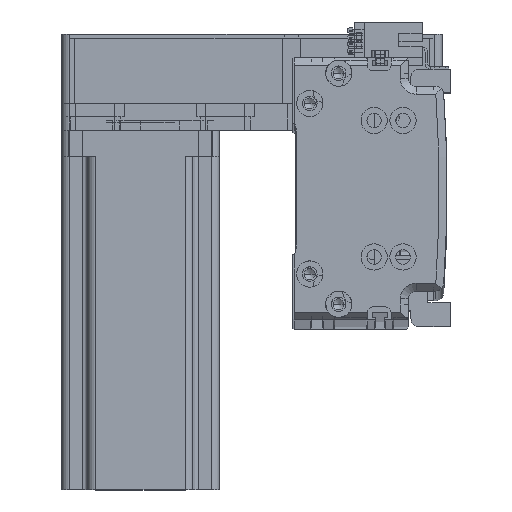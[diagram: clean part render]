
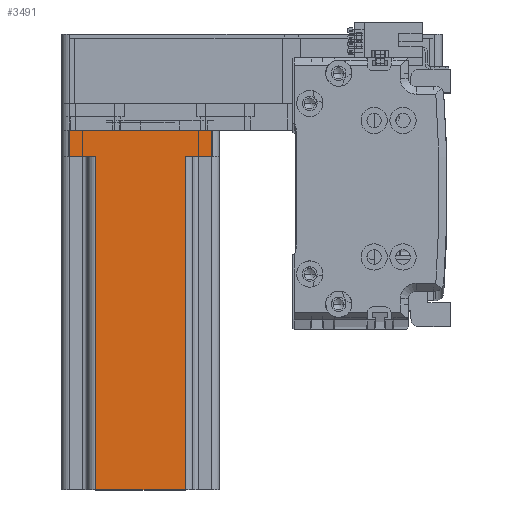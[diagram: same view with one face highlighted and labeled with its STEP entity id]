
A CAD part, top view. The second image highlights one B-rep face of the part: STEP entity #3491.
In plain terms, the highlighted planar face has unit normal (0, 0, 1) as drawn and (0, -1, 0) by its records, which use the part's own axes.
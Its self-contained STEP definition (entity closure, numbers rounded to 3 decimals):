
#617 = CARTESIAN_POINT ( 'NONE',  ( 30., -30., 0. ) ) ;
#635 = ORIENTED_EDGE ( 'NONE', *, *, #65458, .F. ) ;
#690 = CARTESIAN_POINT ( 'NONE',  ( 17., -30., 10. ) ) ;
#1277 = VERTEX_POINT ( 'NONE', #61323 ) ;
#1317 = VERTEX_POINT ( 'NONE', #14780 ) ;
#1406 = EDGE_CURVE ( 'NONE', #10489, #40994, #45554, .T. ) ;
#2375 = CARTESIAN_POINT ( 'NONE',  ( -27., -30., 0. ) ) ;
#2650 = DIRECTION ( 'NONE',  ( 0., 0., 1. ) ) ;
#3484 = VERTEX_POINT ( 'NONE', #3823 ) ;
#3491 = ADVANCED_FACE ( 'NONE', ( #10853 ), #24780, .F. ) ;
#3656 = VECTOR ( 'NONE', #9296, 1000. ) ;
#3691 = LINE ( 'NONE', #60807, #43668 ) ;
#3823 = CARTESIAN_POINT ( 'NONE',  ( -17., -30., 137. ) ) ;
#6710 = CARTESIAN_POINT ( 'NONE',  ( -27., -30., 137. ) ) ;
#7918 = EDGE_CURVE ( 'NONE', #51882, #10489, #36630, .T. ) ;
#9296 = DIRECTION ( 'NONE',  ( 1., 0., 0. ) ) ;
#10489 = VERTEX_POINT ( 'NONE', #2375 ) ;
#10853 = FACE_OUTER_BOUND ( 'NONE', #46519, .T. ) ;
#12124 = VERTEX_POINT ( 'NONE', #20728 ) ;
#12247 = CARTESIAN_POINT ( 'NONE',  ( 27., -30., 0. ) ) ;
#13588 = ORIENTED_EDGE ( 'NONE', *, *, #38333, .T. ) ;
#14311 = VECTOR ( 'NONE', #21589, 1000. ) ;
#14523 = CARTESIAN_POINT ( 'NONE',  ( 30., -30., 137. ) ) ;
#14780 = CARTESIAN_POINT ( 'NONE',  ( 27., -30., 10. ) ) ;
#15729 = CARTESIAN_POINT ( 'NONE',  ( -17., -30., 137. ) ) ;
#15754 = ORIENTED_EDGE ( 'NONE', *, *, #23719, .T. ) ;
#16354 = ORIENTED_EDGE ( 'NONE', *, *, #48516, .T. ) ;
#17525 = LINE ( 'NONE', #24777, #3656 ) ;
#17617 = EDGE_CURVE ( 'NONE', #3484, #12124, #3691, .T. ) ;
#18454 = VERTEX_POINT ( 'NONE', #690 ) ;
#19729 = DIRECTION ( 'NONE',  ( -1., 0., 0. ) ) ;
#20728 = CARTESIAN_POINT ( 'NONE',  ( 17., -30., 137. ) ) ;
#21589 = DIRECTION ( 'NONE',  ( -1., 0., 0. ) ) ;
#22413 = DIRECTION ( 'NONE',  ( 0., 0., -1. ) ) ;
#22765 = VECTOR ( 'NONE', #22413, 1000. ) ;
#23692 = LINE ( 'NONE', #15729, #35903 ) ;
#23719 = EDGE_CURVE ( 'NONE', #40994, #1317, #58455, .T. ) ;
#23842 = ORIENTED_EDGE ( 'NONE', *, *, #58799, .T. ) ;
#24777 = CARTESIAN_POINT ( 'NONE',  ( -20., -30., 10. ) ) ;
#24780 = PLANE ( 'NONE',  #64255 ) ;
#26507 = LINE ( 'NONE', #58124, #14311 ) ;
#27135 = VECTOR ( 'NONE', #56960, 1000. ) ;
#28795 = LINE ( 'NONE', #62196, #27135 ) ;
#29530 = DIRECTION ( 'NONE',  ( 1., 0., 0. ) ) ;
#31091 = ORIENTED_EDGE ( 'NONE', *, *, #7918, .T. ) ;
#31674 = VECTOR ( 'NONE', #37085, 1000. ) ;
#35903 = VECTOR ( 'NONE', #57474, 1000. ) ;
#36318 = ORIENTED_EDGE ( 'NONE', *, *, #17617, .F. ) ;
#36630 = LINE ( 'NONE', #6710, #22765 ) ;
#37085 = DIRECTION ( 'NONE',  ( 1., 0., 0. ) ) ;
#38333 = EDGE_CURVE ( 'NONE', #1317, #18454, #26507, .T. ) ;
#40994 = VERTEX_POINT ( 'NONE', #12247 ) ;
#42933 = VECTOR ( 'NONE', #2650, 1000. ) ;
#43668 = VECTOR ( 'NONE', #29530, 1000. ) ;
#45554 = LINE ( 'NONE', #617, #31674 ) ;
#46519 = EDGE_LOOP ( 'NONE', ( #36318, #23842, #635, #31091, #50112, #15754, #13588, #16354 ) ) ;
#48516 = EDGE_CURVE ( 'NONE', #18454, #12124, #28795, .T. ) ;
#50112 = ORIENTED_EDGE ( 'NONE', *, *, #1406, .T. ) ;
#51016 = DIRECTION ( 'NONE',  ( 0., 1., 0. ) ) ;
#51882 = VERTEX_POINT ( 'NONE', #67247 ) ;
#56960 = DIRECTION ( 'NONE',  ( 0., 0., 1. ) ) ;
#57474 = DIRECTION ( 'NONE',  ( 0., 0., -1. ) ) ;
#58124 = CARTESIAN_POINT ( 'NONE',  ( 20., -30., 10. ) ) ;
#58455 = LINE ( 'NONE', #59877, #42933 ) ;
#58799 = EDGE_CURVE ( 'NONE', #3484, #1277, #23692, .T. ) ;
#59877 = CARTESIAN_POINT ( 'NONE',  ( 27., -30., 137. ) ) ;
#60807 = CARTESIAN_POINT ( 'NONE',  ( 30., -30., 137. ) ) ;
#61323 = CARTESIAN_POINT ( 'NONE',  ( -17., -30., 10. ) ) ;
#62196 = CARTESIAN_POINT ( 'NONE',  ( 17., -30., 137. ) ) ;
#64255 = AXIS2_PLACEMENT_3D ( 'NONE', #14523, #51016, #19729 ) ;
#65458 = EDGE_CURVE ( 'NONE', #51882, #1277, #17525, .T. ) ;
#67247 = CARTESIAN_POINT ( 'NONE',  ( -27., -30., 10. ) ) ;
